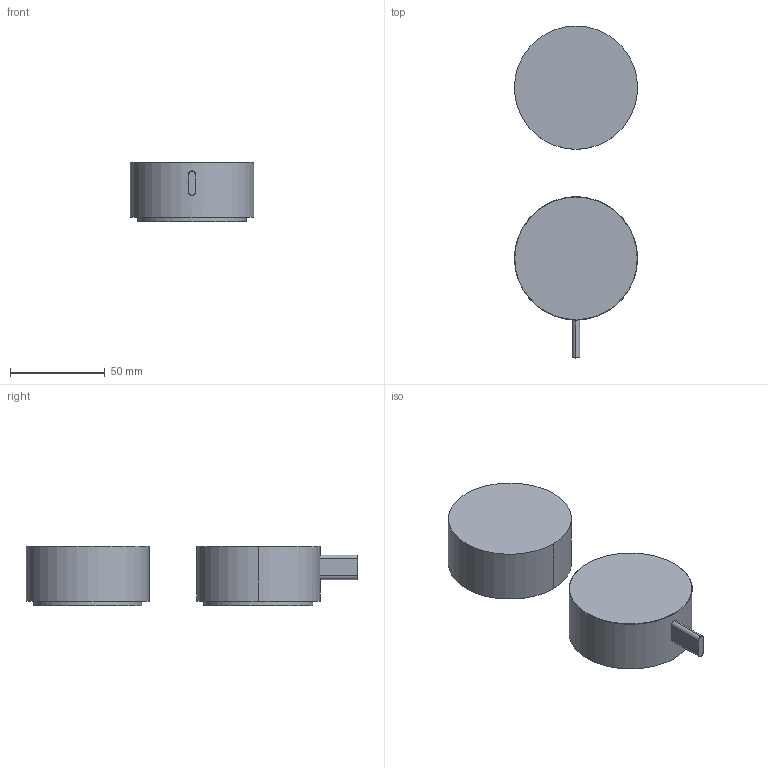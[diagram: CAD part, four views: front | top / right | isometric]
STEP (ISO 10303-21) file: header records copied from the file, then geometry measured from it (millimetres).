
FILE_DESCRIPTION(('STEP AP214'),'2;1');
FILE_NAME('DIS_3D_A785BU_A785AU.stp','2022-01-11T12:07:07',(''),(''),'2015.2.119','THINKDESIGN','');
FILE_SCHEMA(('AUTOMOTIVE_DESIGN'));
Length unit declared in the file: millimetre
Products named in the file (1): top
Bounding box: 65 x 175 x 31.6 mm (x, y, z)
Volume: 122212 mm3; surface area: 54083 mm2
Topology: 5 solids, 5 shells, 112 faces, 254 edges, 156 vertices
Faces by surface type: cylinder 48, bspline 37, plane 27
Full cylindrical faces by diameter (mm): 57 x1, 57.5 x1
Entity records: 7940 total; most frequent: CARTESIAN_POINT 3547, ORIENTED_EDGE 508, DIRECTION 439, EDGE_CURVE 254, STYLED_ITEM 229, PRESENTATION_STYLE_ASSIGNMENT 225, SURFACE_STYLE_USAGE 225, SURFACE_SIDE_STYLE 225
